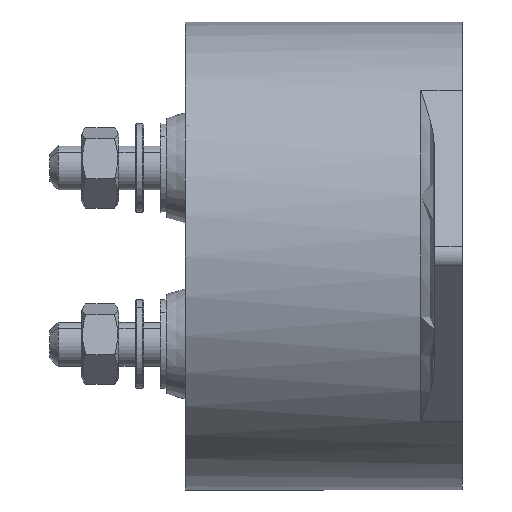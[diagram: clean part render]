
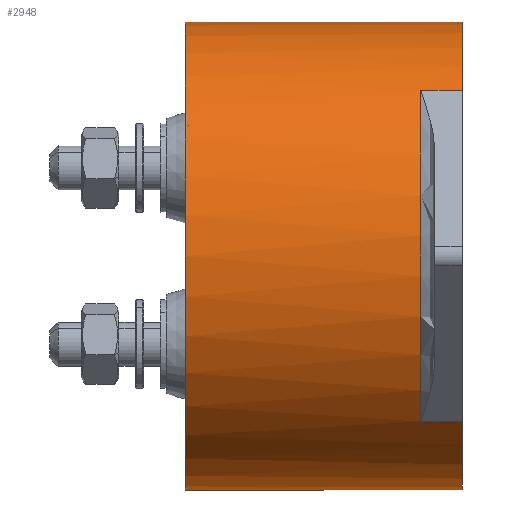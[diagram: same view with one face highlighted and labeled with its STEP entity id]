
A CAD part, left-side view. The second image highlights one B-rep face of the part: STEP entity #2948.
In plain terms, the highlighted cylindrical face has radius 42.25 mm (diameter 84.5 mm), a partial arc.
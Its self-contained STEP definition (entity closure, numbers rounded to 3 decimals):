
#5 = EDGE_CURVE ( 'NONE', #5893, #3343, #7538, .T. ) ;
#153 = LINE ( 'NONE', #6137, #4791 ) ;
#231 = VERTEX_POINT ( 'NONE', #4524 ) ;
#433 = EDGE_CURVE ( 'NONE', #1220, #231, #2674, .T. ) ;
#532 = CARTESIAN_POINT ( 'NONE',  ( 0., 50., 42.25 ) ) ;
#720 = DIRECTION ( 'NONE',  ( 0., 0., -1. ) ) ;
#756 = DIRECTION ( 'NONE',  ( 0., -1., 0. ) ) ;
#765 = CARTESIAN_POINT ( 'NONE',  ( 0., 50., -42.25 ) ) ;
#1210 = CARTESIAN_POINT ( 'NONE',  ( 0., 0., 0. ) ) ;
#1220 = VERTEX_POINT ( 'NONE', #1524 ) ;
#1386 = DIRECTION ( 'NONE',  ( 0., -1., 0. ) ) ;
#1524 = CARTESIAN_POINT ( 'NONE',  ( -29.857, 7.5, -29.894 ) ) ;
#1754 = CIRCLE ( 'NONE', #5754, 42.25 ) ;
#1765 = ORIENTED_EDGE ( 'NONE', *, *, #6649, .F. ) ;
#1820 = DIRECTION ( 'NONE',  ( 0., 0., -1. ) ) ;
#1911 = CARTESIAN_POINT ( 'NONE',  ( -29.857, 0., -29.894 ) ) ;
#2300 = CIRCLE ( 'NONE', #5124, 42.25 ) ;
#2436 = CARTESIAN_POINT ( 'NONE',  ( 0., 0., 0. ) ) ;
#2535 = DIRECTION ( 'NONE',  ( 0., -1., 0. ) ) ;
#2585 = DIRECTION ( 'NONE',  ( 0., -1., 0. ) ) ;
#2674 = CIRCLE ( 'NONE', #5614, 42.25 ) ;
#2875 = VECTOR ( 'NONE', #4809, 1000. ) ;
#2928 = CYLINDRICAL_SURFACE ( 'NONE', #6750, 42.25 ) ;
#2937 = ORIENTED_EDGE ( 'NONE', *, *, #433, .T. ) ;
#2948 = ADVANCED_FACE ( 'NONE', ( #6963 ), #2928, .T. ) ;
#2956 = VERTEX_POINT ( 'NONE', #6130 ) ;
#2975 = DIRECTION ( 'NONE',  ( 0., 0., -1. ) ) ;
#2976 = CARTESIAN_POINT ( 'NONE',  ( 0., 0., 42.25 ) ) ;
#3080 = DIRECTION ( 'NONE',  ( 0., 1., 0. ) ) ;
#3160 = VECTOR ( 'NONE', #5576, 1000. ) ;
#3259 = LINE ( 'NONE', #3384, #3160 ) ;
#3272 = ORIENTED_EDGE ( 'NONE', *, *, #7406, .F. ) ;
#3317 = EDGE_CURVE ( 'NONE', #5893, #6156, #7223, .T. ) ;
#3343 = VERTEX_POINT ( 'NONE', #4278 ) ;
#3375 = CARTESIAN_POINT ( 'NONE',  ( -29.857, 0., 29.894 ) ) ;
#3384 = CARTESIAN_POINT ( 'NONE',  ( -29.857, 5., -29.894 ) ) ;
#3672 = EDGE_LOOP ( 'NONE', ( #4690, #4942, #5285, #7543, #3272, #2937, #3920, #1765 ) ) ;
#3740 = CARTESIAN_POINT ( 'NONE',  ( -29.857, 5., 29.894 ) ) ;
#3920 = ORIENTED_EDGE ( 'NONE', *, *, #5062, .T. ) ;
#3996 = LINE ( 'NONE', #3740, #4358 ) ;
#4146 = AXIS2_PLACEMENT_3D ( 'NONE', #6660, #1386, #720 ) ;
#4213 = DIRECTION ( 'NONE',  ( 0., 0., -1. ) ) ;
#4278 = CARTESIAN_POINT ( 'NONE',  ( 0., 0., 42.25 ) ) ;
#4335 = CARTESIAN_POINT ( 'NONE',  ( 0., 0., 0. ) ) ;
#4346 = VERTEX_POINT ( 'NONE', #1911 ) ;
#4358 = VECTOR ( 'NONE', #2535, 1000. ) ;
#4524 = CARTESIAN_POINT ( 'NONE',  ( -29.857, 7.5, 29.894 ) ) ;
#4690 = ORIENTED_EDGE ( 'NONE', *, *, #5, .F. ) ;
#4791 = VECTOR ( 'NONE', #756, 1000. ) ;
#4809 = DIRECTION ( 'NONE',  ( 0., -1., 0. ) ) ;
#4942 = ORIENTED_EDGE ( 'NONE', *, *, #3317, .T. ) ;
#5062 = EDGE_CURVE ( 'NONE', #231, #5355, #3996, .T. ) ;
#5124 = AXIS2_PLACEMENT_3D ( 'NONE', #1210, #6407, #2975 ) ;
#5285 = ORIENTED_EDGE ( 'NONE', *, *, #6788, .T. ) ;
#5355 = VERTEX_POINT ( 'NONE', #3375 ) ;
#5576 = DIRECTION ( 'NONE',  ( 0., -1., 0. ) ) ;
#5614 = AXIS2_PLACEMENT_3D ( 'NONE', #7139, #3080, #1820 ) ;
#5754 = AXIS2_PLACEMENT_3D ( 'NONE', #2436, #6007, #4213 ) ;
#5893 = VERTEX_POINT ( 'NONE', #532 ) ;
#6007 = DIRECTION ( 'NONE',  ( 0., -1., 0. ) ) ;
#6130 = CARTESIAN_POINT ( 'NONE',  ( 0., 0., -42.25 ) ) ;
#6137 = CARTESIAN_POINT ( 'NONE',  ( 0., 0., -42.25 ) ) ;
#6156 = VERTEX_POINT ( 'NONE', #765 ) ;
#6407 = DIRECTION ( 'NONE',  ( 0., -1., 0. ) ) ;
#6528 = EDGE_CURVE ( 'NONE', #4346, #2956, #2300, .T. ) ;
#6649 = EDGE_CURVE ( 'NONE', #3343, #5355, #1754, .T. ) ;
#6660 = CARTESIAN_POINT ( 'NONE',  ( 0., 50., 0. ) ) ;
#6750 = AXIS2_PLACEMENT_3D ( 'NONE', #4335, #2585, #7355 ) ;
#6788 = EDGE_CURVE ( 'NONE', #6156, #2956, #153, .T. ) ;
#6963 = FACE_OUTER_BOUND ( 'NONE', #3672, .T. ) ;
#7139 = CARTESIAN_POINT ( 'NONE',  ( 0., 7.5, 0. ) ) ;
#7223 = CIRCLE ( 'NONE', #4146, 42.25 ) ;
#7355 = DIRECTION ( 'NONE',  ( 0., 0., -1. ) ) ;
#7406 = EDGE_CURVE ( 'NONE', #1220, #4346, #3259, .T. ) ;
#7538 = LINE ( 'NONE', #2976, #2875 ) ;
#7543 = ORIENTED_EDGE ( 'NONE', *, *, #6528, .F. ) ;
